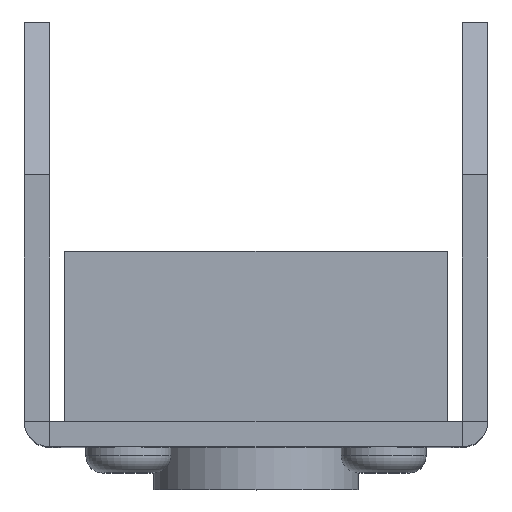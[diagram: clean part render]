
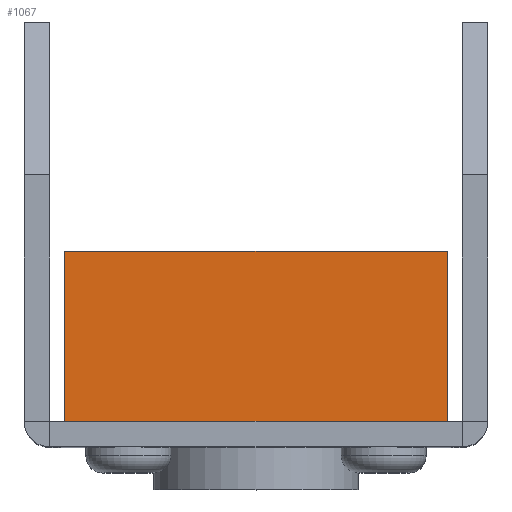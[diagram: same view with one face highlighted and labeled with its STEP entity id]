
A CAD part, top view. The second image highlights one B-rep face of the part: STEP entity #1067.
In plain terms, the highlighted planar face has unit normal (0, 0, 1).
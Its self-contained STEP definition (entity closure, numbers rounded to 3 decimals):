
#39=DIRECTION('',(1.,0.,0.));
#40=VECTOR('',#39,4.5);
#41=CARTESIAN_POINT('',(-2.25,0.,2.25));
#42=LINE('',#41,#40);
#196=DIRECTION('',(0.,1.,0.));
#197=VECTOR('',#196,2.);
#198=CARTESIAN_POINT('',(2.25,0.,2.25));
#199=LINE('',#198,#197);
#203=DIRECTION('',(0.,1.,0.));
#204=VECTOR('',#203,2.);
#205=CARTESIAN_POINT('',(-2.25,0.,2.25));
#206=LINE('',#205,#204);
#231=DIRECTION('',(1.,0.,0.));
#232=VECTOR('',#231,4.5);
#233=CARTESIAN_POINT('',(-2.25,2.,2.25));
#234=LINE('',#233,#232);
#827=CARTESIAN_POINT('',(-2.25,0.,2.25));
#828=VERTEX_POINT('',#827);
#829=CARTESIAN_POINT('',(2.25,0.,2.25));
#830=VERTEX_POINT('',#829);
#835=CARTESIAN_POINT('',(-2.25,2.,2.25));
#836=VERTEX_POINT('',#835);
#837=CARTESIAN_POINT('',(2.25,2.,2.25));
#838=VERTEX_POINT('',#837);
#1054=CARTESIAN_POINT('',(-2.25,0.,2.25));
#1055=DIRECTION('',(0.,0.,1.));
#1056=DIRECTION('',(1.,0.,0.));
#1057=AXIS2_PLACEMENT_3D('',#1054,#1055,#1056);
#1058=PLANE('',#1057);
#1059=ORIENTED_EDGE('',*,*,#968,.F.);
#1061=ORIENTED_EDGE('',*,*,#1060,.T.);
#1063=ORIENTED_EDGE('',*,*,#1062,.T.);
#1064=ORIENTED_EDGE('',*,*,#1046,.F.);
#1065=EDGE_LOOP('',(#1059,#1061,#1063,#1064));
#1066=FACE_OUTER_BOUND('',#1065,.F.);
#968=EDGE_CURVE('',#828,#830,#42,.T.);
#1046=EDGE_CURVE('',#830,#838,#199,.T.);
#1060=EDGE_CURVE('',#828,#836,#206,.T.);
#1062=EDGE_CURVE('',#836,#838,#234,.T.);
#1067=ADVANCED_FACE('',(#1066),#1058,.T.);
